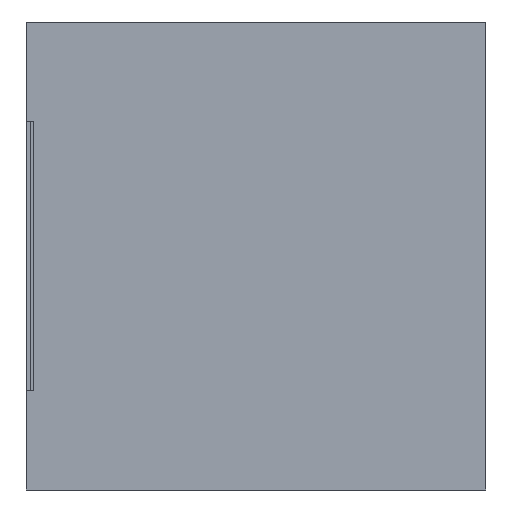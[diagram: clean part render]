
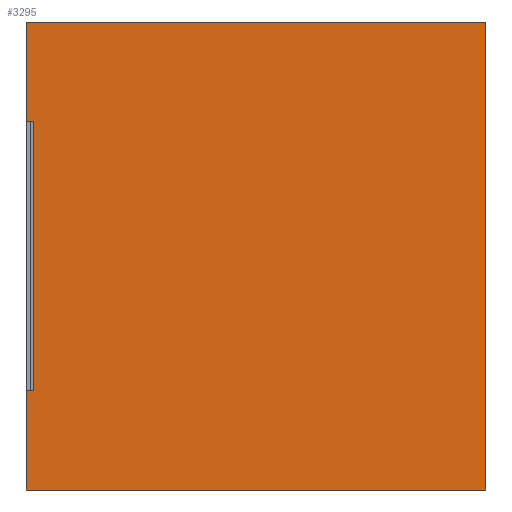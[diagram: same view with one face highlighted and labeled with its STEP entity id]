
A CAD part, left-side view. The second image highlights one B-rep face of the part: STEP entity #3295.
In plain terms, the highlighted planar face has unit normal (-1, 0, 0).
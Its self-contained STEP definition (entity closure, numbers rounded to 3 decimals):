
#416 = CARTESIAN_POINT ( 'NONE',  ( -94., 61.3, -18.25 ) ) ;
#451 = VERTEX_POINT ( 'NONE', #7846 ) ;
#1127 = CARTESIAN_POINT ( 'NONE',  ( -94., 62.3, 31.75 ) ) ;
#1282 = LINE ( 'NONE', #6332, #10657 ) ;
#1350 = VECTOR ( 'NONE', #4754, 1000. ) ;
#1458 = DIRECTION ( 'NONE',  ( 0., -1., 0. ) ) ;
#1461 = ORIENTED_EDGE ( 'NONE', *, *, #9453, .F. ) ;
#1897 = CARTESIAN_POINT ( 'NONE',  ( -94., 0., 31.75 ) ) ;
#1965 = ORIENTED_EDGE ( 'NONE', *, *, #5824, .F. ) ;
#1971 = VECTOR ( 'NONE', #2667, 1000. ) ;
#2140 = LINE ( 'NONE', #416, #6673 ) ;
#2162 = EDGE_CURVE ( 'NONE', #8816, #8616, #8863, .T. ) ;
#2256 = VERTEX_POINT ( 'NONE', #6714 ) ;
#2667 = DIRECTION ( 'NONE',  ( 0., 1., 0. ) ) ;
#2717 = DIRECTION ( 'NONE',  ( 0., 0., 1. ) ) ;
#3295 = ADVANCED_FACE ( 'NONE', ( #8129 ), #6566, .F. ) ;
#3297 = VERTEX_POINT ( 'NONE', #1127 ) ;
#3320 = EDGE_LOOP ( 'NONE', ( #1461, #9719, #6397, #10317, #9171, #10638, #11193, #1965 ) ) ;
#3787 = CARTESIAN_POINT ( 'NONE',  ( -94., 62.3, -31.75 ) ) ;
#3854 = CARTESIAN_POINT ( 'NONE',  ( -94., 62.3, -31.75 ) ) ;
#3922 = LINE ( 'NONE', #8648, #11199 ) ;
#4511 = CARTESIAN_POINT ( 'NONE',  ( -94., 0., -31.75 ) ) ;
#4754 = DIRECTION ( 'NONE',  ( 0., 0., 1. ) ) ;
#4772 = DIRECTION ( 'NONE',  ( 0., 0., -1. ) ) ;
#5248 = CARTESIAN_POINT ( 'NONE',  ( -94., 62.3, -18.25 ) ) ;
#5364 = LINE ( 'NONE', #5995, #10238 ) ;
#5467 = LINE ( 'NONE', #6178, #6052 ) ;
#5824 = EDGE_CURVE ( 'NONE', #5897, #2256, #8902, .T. ) ;
#5897 = VERTEX_POINT ( 'NONE', #10947 ) ;
#5995 = CARTESIAN_POINT ( 'NONE',  ( -94., 62.3, -31.75 ) ) ;
#6052 = VECTOR ( 'NONE', #7092, 1000. ) ;
#6178 = CARTESIAN_POINT ( 'NONE',  ( -94., 61.3, -18.25 ) ) ;
#6332 = CARTESIAN_POINT ( 'NONE',  ( -94., 62.3, -31.75 ) ) ;
#6397 = ORIENTED_EDGE ( 'NONE', *, *, #2162, .F. ) ;
#6566 = PLANE ( 'NONE',  #7608 ) ;
#6673 = VECTOR ( 'NONE', #9376, 1000. ) ;
#6714 = CARTESIAN_POINT ( 'NONE',  ( -94., 62.3, 18.25 ) ) ;
#7092 = DIRECTION ( 'NONE',  ( 0., 1., 0. ) ) ;
#7608 = AXIS2_PLACEMENT_3D ( 'NONE', #3854, #10240, #4772 ) ;
#7846 = CARTESIAN_POINT ( 'NONE',  ( -94., 0., -31.75 ) ) ;
#8094 = CARTESIAN_POINT ( 'NONE',  ( -94., 61.3, 18.25 ) ) ;
#8129 = FACE_OUTER_BOUND ( 'NONE', #3320, .T. ) ;
#8616 = VERTEX_POINT ( 'NONE', #5248 ) ;
#8624 = VECTOR ( 'NONE', #9124, 1000. ) ;
#8648 = CARTESIAN_POINT ( 'NONE',  ( -94., 62.3, 31.75 ) ) ;
#8692 = EDGE_CURVE ( 'NONE', #2256, #3297, #1282, .T. ) ;
#8760 = VERTEX_POINT ( 'NONE', #1897 ) ;
#8816 = VERTEX_POINT ( 'NONE', #3787 ) ;
#8863 = LINE ( 'NONE', #10220, #1350 ) ;
#8902 = LINE ( 'NONE', #8094, #1971 ) ;
#9119 = VERTEX_POINT ( 'NONE', #9347 ) ;
#9124 = DIRECTION ( 'NONE',  ( 0., 0., 1. ) ) ;
#9171 = ORIENTED_EDGE ( 'NONE', *, *, #10985, .T. ) ;
#9226 = EDGE_CURVE ( 'NONE', #8816, #451, #5364, .T. ) ;
#9347 = CARTESIAN_POINT ( 'NONE',  ( -94., 61.3, -18.25 ) ) ;
#9376 = DIRECTION ( 'NONE',  ( 0., 0., 1. ) ) ;
#9453 = EDGE_CURVE ( 'NONE', #9119, #5897, #2140, .T. ) ;
#9567 = DIRECTION ( 'NONE',  ( 0., -1., 0. ) ) ;
#9719 = ORIENTED_EDGE ( 'NONE', *, *, #11426, .T. ) ;
#10220 = CARTESIAN_POINT ( 'NONE',  ( -94., 62.3, -31.75 ) ) ;
#10238 = VECTOR ( 'NONE', #1458, 1000. ) ;
#10240 = DIRECTION ( 'NONE',  ( 1., 0., 0. ) ) ;
#10317 = ORIENTED_EDGE ( 'NONE', *, *, #9226, .T. ) ;
#10638 = ORIENTED_EDGE ( 'NONE', *, *, #11341, .F. ) ;
#10657 = VECTOR ( 'NONE', #2717, 1000. ) ;
#10947 = CARTESIAN_POINT ( 'NONE',  ( -94., 61.3, 18.25 ) ) ;
#10985 = EDGE_CURVE ( 'NONE', #451, #8760, #11054, .T. ) ;
#11054 = LINE ( 'NONE', #4511, #8624 ) ;
#11193 = ORIENTED_EDGE ( 'NONE', *, *, #8692, .F. ) ;
#11199 = VECTOR ( 'NONE', #9567, 1000. ) ;
#11341 = EDGE_CURVE ( 'NONE', #3297, #8760, #3922, .T. ) ;
#11426 = EDGE_CURVE ( 'NONE', #9119, #8616, #5467, .T. ) ;
